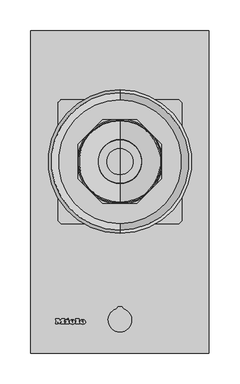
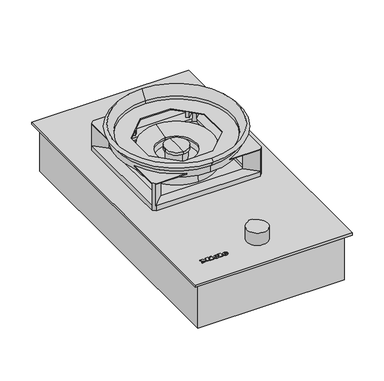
"""IFC4 building model written with IfcOpenShell, lengths in millimetres: proxy geometry, 12106150_HK_CS7151FL : 27715150_HK_12106150_CS7151FL."""

from ifc_helpers import new_model, si_unit, point, frame, frame_2d, origin, origin_with_axes, place, context, project, spatial, polyline, circle_curve, ellipse_curve, trimmed, segment, composite_curve, outline, extrude, source, transform, mapped, element, save
from ifc_brep_helpers import plane_surface, cylinder_surface, revolved_surface, extruded_surface, advanced_brep


def specialty_equipment_0a913533(model_context):
    return source(origin(), model_context, "Body", "SolidModel", [
        advanced_brep(
        [(-60.94, 49.1959995, 4.9919765), (-60.94, 50.0039992, 4.9925904), (-55.588, 50.0039992, 4.9925904), (-64.9, 50.0039992, 4.9925904), (-62.7, 47.3, 4.990536), (-55.724, 49.1959995, 4.9919765), (-58.14, 49.1959995, 4.9919765), (-60.044, 48.2999997, 4.9912958), (-60.94, 51.0279989, 4.9933684), (-60.94, 51.8999987, 4.9940309), (-59.572, 51.8999987, 4.9940309), (-59.572, 51.0279989, 4.9933684), (-60.94, 49.1967592, 3.9919768), (-60.044, 48.3007595, 3.9912961), (-58.14, 49.1967592, 3.9919768), (-55.724, 49.1967592, 3.9919768), (-62.7, 47.3007598, 3.9905363), (-64.9, 50.004759, 3.9925907), (-55.588, 50.004759, 3.9925907), (-60.94, 50.004759, 3.9925907), (-60.94, 51.0287587, 3.9933687), (-59.572, 51.0287587, 3.9933687), (-59.572, 51.9007584, 3.9940312), (-60.94, 51.9007584, 3.9940312)],
        [
            (0, 1),
            (1, 2),
            (2, 3, ellipse_curve(frame((-60.244, 50.0039992, 4.9925904), z_axis=(0.0, -0.0007597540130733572, 0.9999997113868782), x_axis=(-1.0, 0.0, 0.0)), 4.656, 3.848)),
            (3, 4, circle_curve(frame((-61.8039564, 50.2759991, 4.9927971), z_axis=(0.0, -0.0007597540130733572, 0.9999997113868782), x_axis=(0.0, -0.9999997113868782, -0.0007597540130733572)), 3.1079688)),
            (4, 5, circle_curve(frame((-60.3372064, 52.3879985, 4.9944017), z_axis=(0.0, -0.0007597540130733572, 0.9999997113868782), x_axis=(0.0, -0.9999997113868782, -0.0007597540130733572)), 5.6098607)),
            (5, 6),
            (6, 7, circle_curve(frame((-59.6529412, 49.9399992, 4.9925418), z_axis=(0.0, 0.0007597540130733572, -0.9999997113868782), x_axis=(0.0, -0.9999997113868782, -0.0007597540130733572)), 1.6859795)),
            (7, 0, circle_curve(frame((-60.044, 49.1959995, 4.9919765), z_axis=(0.0, 0.0007597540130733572, -0.9999997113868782), x_axis=(0.0, -0.9999997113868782, -0.0007597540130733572)), 0.896)),
            (8, 9),
            (9, 10, circle_curve(frame((-60.256, 51.8999987, 4.9940309), z_axis=(0.0, 0.0007597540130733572, -0.9999997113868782), x_axis=(0.0, -0.9999997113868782, -0.0007597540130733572)), 0.684)),
            (10, 11),
            (11, 8),
            (12, 13, circle_curve(frame((-60.044, 49.1967592, 3.9919768), z_axis=(0.0, -0.0007597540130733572, 0.9999997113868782), x_axis=(0.0, -0.9999997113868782, -0.0007597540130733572)), 0.896)),
            (13, 14, circle_curve(frame((-59.6529412, 49.940759, 3.9925421), z_axis=(0.0, -0.0007597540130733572, 0.9999997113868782), x_axis=(0.0, -0.9999997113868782, -0.0007597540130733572)), 1.6859795)),
            (14, 15),
            (15, 16, circle_curve(frame((-60.3372064, 52.3887583, 3.994402), z_axis=(0.0, 0.0007597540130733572, -0.9999997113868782), x_axis=(0.0, -0.9999997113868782, -0.0007597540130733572)), 5.6098607)),
            (16, 17, circle_curve(frame((-61.8039564, 50.2767589, 3.9927974), z_axis=(0.0, 0.0007597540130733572, -0.9999997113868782), x_axis=(0.0, -0.9999997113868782, -0.0007597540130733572)), 3.1079688)),
            (17, 18, ellipse_curve(frame((-60.244, 50.004759, 3.9925907), z_axis=(0.0, 0.0007597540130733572, -0.9999997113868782), x_axis=(-1.0, 0.0, 0.0)), 4.656, 3.848)),
            (18, 19),
            (19, 12),
            (20, 21),
            (21, 22),
            (22, 23, circle_curve(frame((-60.256, 51.9007584, 3.9940312), z_axis=(0.0, -0.0007597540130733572, 0.9999997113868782), x_axis=(0.0, -0.9999997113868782, -0.0007597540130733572)), 0.684)),
            (23, 20),
            (0, 12),
            (19, 1),
            (18, 2),
            (5, 15),
            (14, 6),
            (17, 3),
            (13, 7),
            (16, 4),
            (8, 20),
            (23, 9),
            (22, 10),
            (21, 11),
        ],
        [
            plane_surface(frame((-60.94, 50.0039992, 4.9925904), z_axis=(0.0, -0.0007597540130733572, 0.9999997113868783), x_axis=(0.0, 0.9999997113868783, 0.0007597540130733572))),
            plane_surface(frame((-60.94, 50.004759, 3.9925907), z_axis=(0.0, 0.0007597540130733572, -0.9999997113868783), x_axis=(0.0, -0.9999997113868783, -0.0007597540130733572))),
            plane_surface(frame((-60.94, 49.1959995, 4.9919765), z_axis=(1.0, 0.0, 0.0), x_axis=(0.0, 0.0007597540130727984, -0.9999997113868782))),
            plane_surface(frame((-60.94, 50.0039992, 4.9925904), z_axis=(0.0, -0.9999997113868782, -0.0007597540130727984), x_axis=(0.0, 0.0007597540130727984, -0.9999997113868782))),
            plane_surface(frame((-55.724, 49.1959995, 4.9919765), z_axis=(0.0, 0.9999997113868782, 0.0007597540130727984), x_axis=(0.0, 0.0007597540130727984, -0.9999997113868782))),
            extruded_surface(trimmed(ellipse_curve(frame((-60.244, 50.0055187, 2.992591), z_axis=(0.0, -0.0007597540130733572, 0.9999997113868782), x_axis=(-1.0, 0.0, 0.0)), 4.656, 3.848), [point((-55.588, 50.0055187, 2.992591))], [point((-64.9, 50.0055187, 2.992591))], True, "CARTESIAN"), (0.0, -0.0007597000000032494, 0.9999997), 0.9999999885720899),
            revolved_surface(polyline([(-59.6529412, 48.25477998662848, 3.9912611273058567), (-59.6529412, 48.25402023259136, 4.991260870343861)]), (-59.6529412, 49.940759, 3.9925421), (0.0, 0.0007597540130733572, -0.9999997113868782)),
            revolved_surface(polyline([(-60.044, 48.30075945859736, 3.9912960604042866), (-60.044, 48.29999970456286, 4.991295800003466)]), (-60.044, 49.1967592, 3.9919768), (0.0, 0.0007597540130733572, -0.9999997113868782)),
            cylinder_surface(frame((-61.8039564, 50.2767589, 3.9927974), z_axis=(0.0, -0.0007597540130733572, 0.9999997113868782), x_axis=(0.0, -0.9999997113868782, -0.0007597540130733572)), 3.1079688),
            cylinder_surface(frame((-60.3372064, 52.3887583, 3.994402), z_axis=(0.0, -0.0007597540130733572, 0.9999997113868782), x_axis=(0.0, -0.9999997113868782, -0.0007597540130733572)), 5.6098607),
            plane_surface(frame((-60.94, 51.0279989, 4.9933684), z_axis=(1.0, 0.0, 0.0), x_axis=(0.0, 0.0007597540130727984, -0.9999997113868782))),
            revolved_surface(polyline([(-60.256, 51.21675859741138, 3.9935115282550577), (-60.256, 51.215998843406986, 4.993511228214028)]), (-60.256, 51.9007584, 3.9940312), (0.0, 0.0007597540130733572, -0.9999997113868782)),
            plane_surface(frame((-59.572, 51.8999987, 4.9940309), z_axis=(-1.0, 0.0, 0.0), x_axis=(0.0, 0.0007597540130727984, -0.9999997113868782))),
            plane_surface(frame((-59.572, 51.0279989, 4.9933684), z_axis=(0.0, 0.9999997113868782, 0.0007597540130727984), x_axis=(0.0, 0.0007597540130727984, -0.9999997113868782))),
        ],
        [
            (0, [[1, 2, 3, 4, 5, 6, 7, 8], [9, 10, 11, 12]]),
            (1, [[13, 14, 15, 16, 17, 18, 19, 20], [21, 22, 23, 24]]),
            (2, [[-1, 25, -20, 26]]),
            (3, [[-2, -26, -19, 27]]),
            (4, [[-6, 28, -15, 29]]),
            (5, [[-3, -27, -18, 30]]),
            (6, [[-7, -29, -14, 31]]),
            (7, [[-8, -31, -13, -25]]),
            (8, [[-4, -30, -17, 32]]),
            (9, [[-5, -32, -16, -28]]),
            (10, [[-9, 33, -24, 34]]),
            (11, [[-10, -34, -23, 35]]),
            (12, [[-11, -35, -22, 36]]),
            (13, [[-12, -36, -21, -33]]),
        ],
    ),
        advanced_brep(
        [(-77.636, 49.1959995, 4.9919765), (-77.636, 50.0039992, 4.9925904), (-72.284, 50.0039992, 4.9925904), (-81.596, 50.0039992, 4.9925904), (-79.396, 47.3, 4.990536), (-72.42, 49.1959995, 4.9919765), (-74.836, 49.1959995, 4.9919765), (-76.74, 48.2999997, 4.9912958), (-77.636, 51.0279989, 4.9933684), (-77.636, 51.8999987, 4.9940309), (-76.268, 51.8999987, 4.9940309), (-76.268, 51.0279989, 4.9933684), (-77.636, 49.1967592, 3.9919768), (-76.74, 48.3007595, 3.9912961), (-74.836, 49.1967592, 3.9919768), (-72.42, 49.1967592, 3.9919768), (-79.396, 47.3007598, 3.9905363), (-81.596, 50.004759, 3.9925907), (-72.284, 50.004759, 3.9925907), (-77.636, 50.004759, 3.9925907), (-77.636, 51.0287587, 3.9933687), (-76.268, 51.0287587, 3.9933687), (-76.268, 51.9007584, 3.9940312), (-77.636, 51.9007584, 3.9940312)],
        [
            (0, 1),
            (1, 2),
            (2, 3, ellipse_curve(frame((-76.94, 50.0039992, 4.9925904), z_axis=(0.0, -0.0007597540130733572, 0.9999997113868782), x_axis=(-1.0, 0.0, 0.0)), 4.656, 3.848)),
            (3, 4, circle_curve(frame((-78.4999564, 50.2759991, 4.9927971), z_axis=(0.0, -0.0007597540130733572, 0.9999997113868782), x_axis=(0.0, -0.9999997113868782, -0.0007597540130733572)), 3.1079688)),
            (4, 5, circle_curve(frame((-77.0332064, 52.3879985, 4.9944017), z_axis=(0.0, -0.0007597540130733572, 0.9999997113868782), x_axis=(0.0, -0.9999997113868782, -0.0007597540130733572)), 5.6098607)),
            (5, 6),
            (6, 7, circle_curve(frame((-76.3489412, 49.9399992, 4.9925418), z_axis=(0.0, 0.0007597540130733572, -0.9999997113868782), x_axis=(0.0, -0.9999997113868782, -0.0007597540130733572)), 1.6859795)),
            (7, 0, circle_curve(frame((-76.74, 49.1959995, 4.9919765), z_axis=(0.0, 0.0007597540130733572, -0.9999997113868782), x_axis=(0.0, -0.9999997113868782, -0.0007597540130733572)), 0.896)),
            (8, 9),
            (9, 10, circle_curve(frame((-76.952, 51.8999987, 4.9940309), z_axis=(0.0, 0.0007597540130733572, -0.9999997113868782), x_axis=(0.0, -0.9999997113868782, -0.0007597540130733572)), 0.684)),
            (10, 11),
            (11, 8),
            (12, 13, circle_curve(frame((-76.74, 49.1967592, 3.9919768), z_axis=(0.0, -0.0007597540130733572, 0.9999997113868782), x_axis=(0.0, -0.9999997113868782, -0.0007597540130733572)), 0.896)),
            (13, 14, circle_curve(frame((-76.3489412, 49.940759, 3.9925421), z_axis=(0.0, -0.0007597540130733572, 0.9999997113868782), x_axis=(0.0, -0.9999997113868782, -0.0007597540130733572)), 1.6859795)),
            (14, 15),
            (15, 16, circle_curve(frame((-77.0332064, 52.3887583, 3.994402), z_axis=(0.0, 0.0007597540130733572, -0.9999997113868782), x_axis=(0.0, -0.9999997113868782, -0.0007597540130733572)), 5.6098607)),
            (16, 17, circle_curve(frame((-78.4999564, 50.2767589, 3.9927974), z_axis=(0.0, 0.0007597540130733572, -0.9999997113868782), x_axis=(0.0, -0.9999997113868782, -0.0007597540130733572)), 3.1079688)),
            (17, 18, ellipse_curve(frame((-76.94, 50.004759, 3.9925907), z_axis=(0.0, 0.0007597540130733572, -0.9999997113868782), x_axis=(-1.0, 0.0, 0.0)), 4.656, 3.848)),
            (18, 19),
            (19, 12),
            (20, 21),
            (21, 22),
            (22, 23, circle_curve(frame((-76.952, 51.9007584, 3.9940312), z_axis=(0.0, -0.0007597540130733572, 0.9999997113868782), x_axis=(0.0, -0.9999997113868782, -0.0007597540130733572)), 0.684)),
            (23, 20),
            (0, 12),
            (19, 1),
            (18, 2),
            (5, 15),
            (14, 6),
            (17, 3),
            (13, 7),
            (16, 4),
            (8, 20),
            (23, 9),
            (22, 10),
            (21, 11),
        ],
        [
            plane_surface(frame((-77.636, 50.0039992, 4.9925904), z_axis=(0.0, -0.0007597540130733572, 0.9999997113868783), x_axis=(0.0, 0.9999997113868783, 0.0007597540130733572))),
            plane_surface(frame((-77.636, 50.004759, 3.9925907), z_axis=(0.0, 0.0007597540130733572, -0.9999997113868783), x_axis=(0.0, -0.9999997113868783, -0.0007597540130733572))),
            plane_surface(frame((-77.636, 49.1959995, 4.9919765), z_axis=(1.0, 0.0, 0.0), x_axis=(0.0, 0.0007597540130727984, -0.9999997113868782))),
            plane_surface(frame((-77.636, 50.0039992, 4.9925904), z_axis=(0.0, -0.9999997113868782, -0.0007597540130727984), x_axis=(0.0, 0.0007597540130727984, -0.9999997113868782))),
            plane_surface(frame((-72.42, 49.1959995, 4.9919765), z_axis=(0.0, 0.9999997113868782, 0.0007597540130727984), x_axis=(0.0, 0.0007597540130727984, -0.9999997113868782))),
            extruded_surface(trimmed(ellipse_curve(frame((-76.94, 50.0055187, 2.992591), z_axis=(0.0, -0.0007597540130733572, 0.9999997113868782), x_axis=(-1.0, 0.0, 0.0)), 4.656, 3.848), [point((-72.284, 50.0055187, 2.992591))], [point((-81.596, 50.0055187, 2.992591))], True, "CARTESIAN"), (0.0, -0.0007597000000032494, 0.9999997), 0.9999999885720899),
            revolved_surface(polyline([(-76.3489412, 48.25477998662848, 3.9912611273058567), (-76.3489412, 48.25402023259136, 4.991260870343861)]), (-76.3489412, 49.940759, 3.9925421), (0.0, 0.0007597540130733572, -0.9999997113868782)),
            revolved_surface(polyline([(-76.74, 48.30075945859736, 3.9912960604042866), (-76.74, 48.29999970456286, 4.991295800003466)]), (-76.74, 49.1967592, 3.9919768), (0.0, 0.0007597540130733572, -0.9999997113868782)),
            cylinder_surface(frame((-78.4999564, 50.2767589, 3.9927974), z_axis=(0.0, -0.0007597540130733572, 0.9999997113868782), x_axis=(0.0, -0.9999997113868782, -0.0007597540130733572)), 3.1079688),
            cylinder_surface(frame((-77.0332064, 52.3887583, 3.994402), z_axis=(0.0, -0.0007597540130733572, 0.9999997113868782), x_axis=(0.0, -0.9999997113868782, -0.0007597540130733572)), 5.6098607),
            plane_surface(frame((-77.636, 51.0279989, 4.9933684), z_axis=(1.0, 0.0, 0.0), x_axis=(0.0, 0.0007597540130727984, -0.9999997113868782))),
            revolved_surface(polyline([(-76.952, 51.21675859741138, 3.9935115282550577), (-76.952, 51.215998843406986, 4.993511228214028)]), (-76.952, 51.9007584, 3.9940312), (0.0, 0.0007597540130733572, -0.9999997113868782)),
            plane_surface(frame((-76.268, 51.8999987, 4.9940309), z_axis=(-1.0, 0.0, 0.0), x_axis=(0.0, 0.0007597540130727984, -0.9999997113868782))),
            plane_surface(frame((-76.268, 51.0279989, 4.9933684), z_axis=(0.0, 0.9999997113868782, 0.0007597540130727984), x_axis=(0.0, 0.0007597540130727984, -0.9999997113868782))),
        ],
        [
            (0, [[1, 2, 3, 4, 5, 6, 7, 8], [9, 10, 11, 12]]),
            (1, [[13, 14, 15, 16, 17, 18, 19, 20], [21, 22, 23, 24]]),
            (2, [[-1, 25, -20, 26]]),
            (3, [[-2, -26, -19, 27]]),
            (4, [[-6, 28, -15, 29]]),
            (5, [[-3, -27, -18, 30]]),
            (6, [[-7, -29, -14, 31]]),
            (7, [[-8, -31, -13, -25]]),
            (8, [[-4, -30, -17, 32]]),
            (9, [[-5, -32, -16, -28]]),
            (10, [[-9, 33, -24, 34]]),
            (11, [[-10, -34, -23, 35]]),
            (12, [[-11, -35, -22, 36]]),
            (13, [[-12, -36, -21, -33]]),
        ],
    ),
        extrude(outline(polyline([(0.0, 0.0), (-0.0109086, -2.9993294), (-1.4390415, -2.9920868), (-1.4315306, 0.0), (0.0, 0.0)])), frame((-86.38, 54.8287576, 3.9962558), z_axis=(0.0, -0.0007597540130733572, 0.9999997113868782), x_axis=(-0.42472021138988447, 0.9053243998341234, 0.0006878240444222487)), (0.0, 0.0, 1.0), 1.0),
        extrude(outline(polyline([(-0.4933908, 2.4141097), (-2.7800844, -2.4601583), (-7.0459742, -0.4588767), (-7.4401145, -1.2990179), (-8.6568709, -0.728194), (-5.9760369, 4.9862153), (-4.7592806, 4.4153913), (-5.1636142, 3.5535222), (-2.1941494, 2.16044), (-1.7898157, 3.022309), (-0.4933908, 2.4141097)])), frame((-86.38, 54.8287576, 3.9962558), z_axis=(0.0, -0.0007597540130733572, 0.9999997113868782), x_axis=(-0.42472021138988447, 0.9053243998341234, 0.0006878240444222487)), (0.0, 0.0, 1.0), 1.0),
        extrude(outline(polyline([(0.0, 0.0), (0.0, -1.304), (-5.504, -1.304), (-5.504, 5.3519999), (-6.488, 5.3519999), (-6.488, 6.6959999), (0.0, 6.6959999), (0.0, 5.3519999), (-0.96, 5.3519999), (-0.96, 0.0), (0.0, 0.0)])), frame((-71.836, 53.9967578, 3.9956236), z_axis=(0.0, -0.0007597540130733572, 0.9999997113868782), x_axis=(-1.0, 0.0, 0.0)), (0.0, 0.0, 1.0), 1.0),
        extrude(outline(polyline([(0.0, 0.0), (0.0, -1.304), (-5.576, -1.304), (-7.92, 1.696), (-10.256, -1.304), (-15.128, -1.304), (-15.128, 0.0), (-14.112, 0.0), (-14.112, 5.3519999), (-15.128, 5.3519999), (-15.128, 6.6959999), (-8.744, 6.6959999), (-8.744, 5.3519999), (-9.728, 5.3519999), (-9.728, 1.8807776), (-6.136, 6.6959999), (-2.56, 1.9488753), (-2.56, 5.3519999), (-3.52, 5.3519999), (-3.52, 6.6959999), (0.0, 6.6959999), (0.0, 5.3519999), (-0.968, 5.3519999), (-0.968, 0.0), (0.0, 0.0)])), frame((-104.3, 53.9967578, 3.9956236), z_axis=(0.0, -0.0007597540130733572, 0.9999997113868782), x_axis=(-1.0, 0.0, 0.0)), (0.0, 0.0, 1.0), 1.0),
        extrude(outline(composite_curve([segment(trimmed(circle_curve(frame_2d((0.0, 53.0)), 7.5), [point((-7.5, 53.0))], [point((7.5, 53.0))], False, "CARTESIAN"), True, "CONTINUOUS"), segment(trimmed(circle_curve(frame_2d((0.0, 53.0)), 7.5), [point((7.5, 53.0))], [point((-7.5, 53.0))], False, "CARTESIAN"), True, "CONTINUOUS")], self_intersect=False)), frame((0.0, 0.0, 4.0), z_axis=(0.0, 0.0, 1.0), x_axis=(1.0, 0.0, 0.0)), (0.0, 0.0, 1.0), 7.5),
        extrude(outline(composite_curve([segment(polyline([(-5.6016767, 71.1554735), (-3.3, 74.5)]), True, "CONTINUOUS"), segment(trimmed(circle_curve(frame_2d((0.0, 53.0)), 21.7517815), [point((-3.3, 74.5))], [point((3.3, 74.5))], False, "CARTESIAN"), True, "CONTINUOUS"), segment(polyline([(3.3, 74.5), (5.6016767, 71.1554735)]), True, "CONTINUOUS"), segment(trimmed(circle_curve(frame_2d((0.0, 53.0)), 19.0), [point((5.6016767, 71.1554735))], [point((-5.6016767, 71.1554735))], False, "CARTESIAN"), True, "CONTINUOUS")], self_intersect=False)), frame((0.0, 0.0, 11.5), z_axis=(0.0, 0.0, 1.0), x_axis=(1.0, 0.0, 0.0)), (0.0, 0.0, 1.0), 23.5),
        extrude(outline(polyline([(90.0, 399.0), (90.0, 219.0), (-90.0, 219.0), (-90.0, 399.0), (90.0, 399.0)])), frame((0.0, 0.0, 4.0), z_axis=(0.0, 0.0, 1.0), x_axis=(1.0, 0.0, 0.0)), (0.0, 0.0, 1.0), 3.8),
        advanced_brep(
        [(0.0, 409.0, 56.9), (0.0, 209.0, 56.9), (-27.8641463, 241.73, 56.9), (-67.27, 281.1358537, 56.9), (-67.27, 336.8641463, 56.9), (-27.8641463, 376.27, 56.9), (27.8641463, 376.27, 56.9), (67.27, 336.8641463, 56.9), (67.27, 281.1358537, 56.9), (27.8641463, 241.73, 56.9), (-95.2, 409.2, 56.9), (-100.2, 404.2, 56.9), (-100.2, 348.4873397, 56.9), (-39.4873397, 409.2, 56.9), (-100.2, 213.8, 56.9), (-95.2, 208.8, 56.9), (-39.4873397, 208.8, 56.9), (-100.2, 269.5126603, 56.9), (95.2, 208.8, 56.9), (100.2, 213.8, 56.9), (100.2, 269.5126603, 56.9), (39.4873397, 208.8, 56.9), (100.2, 404.2, 56.9), (95.2, 409.2, 56.9), (39.4873397, 409.2, 56.9), (100.2, 348.4873397, 56.9), (95.2, 409.2, 4.0), (100.2, 404.2, 4.0), (100.2, 213.8, 4.0), (95.2, 208.8, 4.0), (-95.2, 208.8, 4.0), (-100.2, 213.8, 4.0), (-100.2, 404.2, 4.0), (-95.2, 409.2, 4.0), (91.0, 218.0, 4.0), (91.0, 400.0, 4.0), (-91.0, 400.0, 4.0), (-91.0, 218.0, 4.0), (-95.2, 409.2, 13.5), (95.2, 409.2, 13.5), (95.2, 409.2, 55.5), (39.4873397, 409.2, 55.5), (-95.2, 409.2, 55.5), (-39.4873397, 409.2, 55.5), (-95.5786797, 408.8213203, 55.5), (-95.5786797, 408.8213203, 13.5), (-100.2, 404.2, 13.5), (-99.8213203, 404.5786797, 13.5), (-99.8213203, 404.5786797, 55.5), (-100.2, 404.2, 55.5), (-100.2, 213.8, 13.5), (-100.2, 348.4873397, 55.5), (-100.2, 213.8, 55.5), (-100.2, 269.5126603, 55.5), (-99.8213203, 213.4213203, 55.5), (-99.8213203, 213.4213203, 13.5), (-95.2, 208.8, 13.5), (-95.5786797, 209.1786797, 13.5), (-95.5786797, 209.1786797, 55.5), (-95.2, 208.8, 55.5), (95.2, 208.8, 13.5), (-39.4873397, 208.8, 55.5), (95.2, 208.8, 55.5), (39.4873397, 208.8, 55.5), (95.5786797, 209.1786797, 55.5), (95.5786797, 209.1786797, 13.5), (100.2, 213.8, 13.5), (99.8213203, 213.4213203, 13.5), (99.8213203, 213.4213203, 55.5), (100.2, 213.8, 55.5), (100.2, 404.2, 13.5), (100.2, 269.5126603, 55.5), (100.2, 404.2, 55.5), (100.2, 348.4873397, 55.5), (99.8213203, 404.5786797, 55.5), (99.8213203, 404.5786797, 13.5), (95.5786797, 408.8213203, 13.5), (95.5786797, 408.8213203, 55.5), (-27.8641463, 241.73, 55.5), (-45.4457528, 259.3116065, 55.5), (-45.4457528, 259.3116065, 45.5), (-49.6883935, 263.5542472, 45.5), (-49.6883935, 263.5542472, 55.5), (-67.27, 281.1358537, 55.5), (-67.27, 336.8641463, 55.5), (-49.6883935, 354.4457528, 55.5), (-49.6883935, 354.4457528, 45.5), (-45.4457528, 358.6883935, 45.5), (-45.4457528, 358.6883935, 55.5), (-27.8641463, 376.27, 55.5), (27.8641463, 376.27, 55.5), (45.4457528, 358.6883935, 55.5), (45.4457528, 358.6883935, 45.5), (49.6883935, 354.4457528, 45.5), (49.6883935, 354.4457528, 55.5), (67.27, 336.8641463, 55.5), (67.27, 281.1358537, 55.5), (49.6883935, 263.5542472, 55.5), (49.6883935, 263.5542472, 45.5), (45.4457528, 259.3116065, 45.5), (45.4457528, 259.3116065, 55.5), (27.8641463, 241.73, 55.5), (91.0, 400.0, 9.0), (91.0, 218.0, 9.0), (-91.0, 218.0, 9.0), (-91.0, 400.0, 9.0), (80.0, 384.0, 9.0), (75.0, 389.0, 9.0), (-75.0, 389.0, 9.0), (-80.0, 384.0, 9.0), (-80.0, 234.0, 9.0), (-75.0, 229.0, 9.0), (75.0, 229.0, 9.0), (80.0, 234.0, 9.0), (-75.3786797, 229.3786797, 45.5), (-79.6213203, 233.6213203, 45.5), (-79.6213203, 384.3786797, 45.5), (-75.3786797, 388.6213203, 45.5), (75.3786797, 388.6213203, 45.5), (79.6213203, 384.3786797, 45.5), (79.6213203, 233.6213203, 45.5), (75.3786797, 229.3786797, 45.5), (80.0, 384.0, 13.5), (79.6213203, 384.3786797, 13.5), (75.3786797, 388.6213203, 13.5), (75.0, 389.0, 13.5), (80.0, 234.0, 13.5), (75.0, 229.0, 13.5), (75.3786797, 229.3786797, 13.5), (79.6213203, 233.6213203, 13.5), (-75.0, 229.0, 13.5), (-80.0, 234.0, 13.5), (-79.6213203, 233.6213203, 13.5), (-75.3786797, 229.3786797, 13.5), (-80.0, 384.0, 13.5), (-75.0, 389.0, 13.5), (-75.3786797, 388.6213203, 13.5), (-79.6213203, 384.3786797, 13.5), (-72.8001715, 377.5575308, 55.5), (-72.8001715, 377.5575308, 50.5), (-78.2471701, 383.0045294, 50.5), (-78.2471701, 383.0045294, 55.5), (-78.2471701, 234.9954706, 55.5), (-78.2471701, 234.9954706, 50.5), (-72.8001715, 240.4424692, 50.5), (-72.8001715, 240.4424692, 55.5), (-68.5575308, 236.1998285, 55.5), (-68.5575308, 236.1998285, 50.5), (-74.0045294, 230.7528299, 50.5), (-74.0045294, 230.7528299, 55.5), (74.0045294, 230.7528299, 55.5), (74.0045294, 230.7528299, 50.5), (68.5575308, 236.1998285, 50.5), (68.5575308, 236.1998285, 55.5), (72.8001715, 240.4424692, 55.5), (72.8001715, 240.4424692, 50.5), (78.2471701, 234.9954706, 50.5), (78.2471701, 234.9954706, 55.5), (78.2471701, 383.0045294, 55.5), (78.2471701, 383.0045294, 50.5), (72.8001715, 377.5575308, 50.5), (72.8001715, 377.5575308, 55.5), (68.5575308, 381.8001715, 55.5), (68.5575308, 381.8001715, 50.5), (74.0045294, 387.2471701, 50.5), (74.0045294, 387.2471701, 55.5), (-74.0045294, 387.2471701, 55.5), (-74.0045294, 387.2471701, 50.5), (-68.5575308, 381.8001715, 50.5), (-68.5575308, 381.8001715, 55.5), (0.0, 409.0, 50.5), (0.0, 409.0, 55.5), (0.0, 209.0, 55.5), (0.0, 209.0, 50.5), (0.0, 409.0, 62.5), (0.0, 209.0, 62.5), (0.0, 420.0, 79.0), (0.0, 198.0, 79.0), (0.0, 425.0, 74.0), (0.0, 193.0, 74.0), (0.0, 416.7, 62.5), (0.0, 201.3, 62.5), (0.0, 416.7, 50.5), (0.0, 201.3, 50.5)],
        [
            (0, 1, circle_curve(frame((0.0, 309.0, 56.9), z_axis=(0.0, 0.0, 1.0), x_axis=(0.0, -1.0, 0.0)), 100.0)),
            (1, 0, circle_curve(frame((0.0, 309.0, 56.9), z_axis=(0.0, 0.0, 1.0), x_axis=(0.0, -1.0, 0.0)), 100.0)),
            (2, 3),
            (3, 4),
            (4, 5),
            (5, 6),
            (6, 7),
            (7, 8),
            (8, 9),
            (9, 2),
            (10, 11),
            (11, 12),
            (12, 13, circle_curve(frame((0.0, 309.0, 56.9), z_axis=(0.0, 0.0, -1.0), x_axis=(0.0, -1.0, 0.0)), 107.7)),
            (13, 10),
            (14, 15),
            (15, 16),
            (16, 17, circle_curve(frame((0.0, 309.0, 56.9), z_axis=(0.0, 0.0, -1.0), x_axis=(0.0, -1.0, 0.0)), 107.7)),
            (17, 14),
            (18, 19),
            (19, 20),
            (20, 21, circle_curve(frame((0.0, 309.0, 56.9), z_axis=(0.0, 0.0, -1.0), x_axis=(0.0, -1.0, 0.0)), 107.7)),
            (21, 18),
            (22, 23),
            (23, 24),
            (24, 25, circle_curve(frame((0.0, 309.0, 56.9), z_axis=(0.0, 0.0, -1.0), x_axis=(0.0, -1.0, 0.0)), 107.7)),
            (25, 22),
            (26, 27),
            (27, 28),
            (28, 29),
            (29, 30),
            (30, 31),
            (31, 32),
            (32, 33),
            (33, 26),
            (34, 35),
            (35, 36),
            (36, 37),
            (37, 34),
            (33, 38),
            (38, 39),
            (39, 26),
            (23, 40),
            (40, 41),
            (41, 24),
            (42, 10),
            (13, 43),
            (43, 42),
            (42, 44),
            (44, 45),
            (45, 38),
            (32, 46),
            (46, 47),
            (47, 48),
            (48, 49),
            (49, 11),
            (31, 50),
            (50, 46),
            (49, 51),
            (51, 12),
            (52, 14),
            (17, 53),
            (53, 52),
            (52, 54),
            (54, 55),
            (55, 50),
            (30, 56),
            (56, 57),
            (57, 58),
            (58, 59),
            (59, 15),
            (29, 60),
            (60, 56),
            (59, 61),
            (61, 16),
            (62, 18),
            (21, 63),
            (63, 62),
            (62, 64),
            (64, 65),
            (65, 60),
            (28, 66),
            (66, 67),
            (67, 68),
            (68, 69),
            (69, 19),
            (27, 70),
            (70, 66),
            (69, 71),
            (71, 20),
            (72, 22),
            (25, 73),
            (73, 72),
            (72, 74),
            (74, 75),
            (75, 70),
            (39, 76),
            (76, 77),
            (77, 40),
            (2, 78),
            (78, 79),
            (79, 80),
            (80, 81),
            (81, 82),
            (82, 83),
            (83, 3),
            (4, 84),
            (84, 85),
            (85, 86),
            (86, 87),
            (87, 88),
            (88, 89),
            (89, 5),
            (6, 90),
            (90, 91),
            (91, 92),
            (92, 93),
            (93, 94),
            (94, 95),
            (95, 7),
            (8, 96),
            (96, 97),
            (97, 98),
            (98, 99),
            (99, 100),
            (100, 101),
            (101, 9),
            (102, 103),
            (103, 104),
            (104, 105),
            (105, 102),
            (106, 107),
            (107, 108),
            (108, 109),
            (109, 110),
            (110, 111),
            (111, 112),
            (112, 113),
            (113, 106),
            (102, 35),
            (34, 103),
            (37, 104),
            (36, 105),
            (80, 114),
            (114, 115),
            (115, 81),
            (86, 116),
            (116, 117),
            (117, 87),
            (92, 118),
            (118, 119),
            (119, 93),
            (98, 120),
            (120, 121),
            (121, 99),
            (106, 122),
            (122, 123),
            (123, 119),
            (118, 124),
            (124, 125),
            (125, 107),
            (113, 126),
            (126, 122),
            (112, 127),
            (127, 128),
            (128, 121),
            (120, 129),
            (129, 126),
            (111, 130),
            (130, 127),
            (110, 131),
            (131, 132),
            (132, 115),
            (114, 133),
            (133, 130),
            (109, 134),
            (134, 131),
            (108, 135),
            (135, 136),
            (136, 117),
            (116, 137),
            (137, 134),
            (125, 135),
            (45, 136),
            (124, 76),
            (75, 123),
            (129, 67),
            (65, 128),
            (133, 57),
            (55, 132),
            (137, 47),
            (85, 138),
            (138, 139),
            (139, 140),
            (140, 141),
            (141, 48),
            (54, 142),
            (142, 143),
            (143, 144),
            (144, 145),
            (145, 82),
            (79, 146),
            (146, 147),
            (147, 148),
            (148, 149),
            (149, 58),
            (64, 150),
            (150, 151),
            (151, 152),
            (152, 153),
            (153, 100),
            (97, 154),
            (154, 155),
            (155, 156),
            (156, 157),
            (157, 68),
            (74, 158),
            (158, 159),
            (159, 160),
            (160, 161),
            (161, 94),
            (91, 162),
            (162, 163),
            (163, 164),
            (164, 165),
            (165, 77),
            (44, 166),
            (166, 167),
            (167, 168),
            (168, 169),
            (169, 88),
            (144, 139, circle_curve(frame((0.0, 309.0, 50.5), z_axis=(0.0, 0.0, -1.0), x_axis=(0.0, -1.0, 0.0)), 100.0)),
            (138, 145, circle_curve(frame((0.0, 309.0, 55.5), z_axis=(0.0, 0.0, 1.0), x_axis=(0.0, -1.0, 0.0)), 100.0)),
            (168, 170, circle_curve(frame((0.0, 309.0, 50.5), z_axis=(0.0, 0.0, -1.0), x_axis=(0.0, -1.0, 0.0)), 100.0)),
            (170, 171),
            (171, 169, circle_curve(frame((0.0, 309.0, 55.5), z_axis=(0.0, 0.0, 1.0), x_axis=(0.0, -1.0, 0.0)), 100.0)),
            (172, 173),
            (173, 147, circle_curve(frame((0.0, 309.0, 50.5), z_axis=(0.0, 0.0, -1.0), x_axis=(0.0, -1.0, 0.0)), 100.0)),
            (146, 172, circle_curve(frame((0.0, 309.0, 55.5), z_axis=(0.0, 0.0, 1.0), x_axis=(0.0, -1.0, 0.0)), 100.0)),
            (174, 175, circle_curve(frame((0.0, 309.0, 62.5), z_axis=(0.0, 0.0, 1.0), x_axis=(0.0, -1.0, 0.0)), 100.0)),
            (175, 1),
            (0, 174),
            (170, 163, circle_curve(frame((0.0, 309.0, 50.5), z_axis=(0.0, 0.0, -1.0), x_axis=(0.0, -1.0, 0.0)), 100.0)),
            (162, 171, circle_curve(frame((0.0, 309.0, 55.5), z_axis=(0.0, 0.0, 1.0), x_axis=(0.0, -1.0, 0.0)), 100.0)),
            (172, 153, circle_curve(frame((0.0, 309.0, 55.5), z_axis=(0.0, 0.0, 1.0), x_axis=(0.0, -1.0, 0.0)), 100.0)),
            (152, 173, circle_curve(frame((0.0, 309.0, 50.5), z_axis=(0.0, 0.0, -1.0), x_axis=(0.0, -1.0, 0.0)), 100.0)),
            (160, 155, circle_curve(frame((0.0, 309.0, 50.5), z_axis=(0.0, 0.0, -1.0), x_axis=(0.0, -1.0, 0.0)), 100.0)),
            (154, 161, circle_curve(frame((0.0, 309.0, 55.5), z_axis=(0.0, 0.0, 1.0), x_axis=(0.0, -1.0, 0.0)), 100.0)),
            (175, 174, circle_curve(frame((0.0, 309.0, 62.5), z_axis=(0.0, 0.0, 1.0), x_axis=(0.0, -1.0, 0.0)), 100.0)),
            (174, 176),
            (176, 177, circle_curve(frame((0.0, 309.0, 79.0), z_axis=(0.0, 0.0, 1.0), x_axis=(0.0, -1.0, 0.0)), 111.0)),
            (177, 175),
            (177, 176, circle_curve(frame((0.0, 309.0, 79.0), z_axis=(0.0, 0.0, 1.0), x_axis=(0.0, -1.0, 0.0)), 111.0)),
            (176, 178),
            (178, 179, circle_curve(frame((0.0, 309.0, 74.0), z_axis=(0.0, 0.0, 1.0), x_axis=(0.0, -1.0, 0.0)), 116.0)),
            (179, 177),
            (179, 178, circle_curve(frame((0.0, 309.0, 74.0), z_axis=(0.0, 0.0, 1.0), x_axis=(0.0, -1.0, 0.0)), 116.0)),
            (178, 180),
            (180, 181, circle_curve(frame((0.0, 309.0, 62.5), z_axis=(0.0, 0.0, 1.0), x_axis=(0.0, -1.0, 0.0)), 107.7)),
            (181, 179),
            (181, 180, circle_curve(frame((0.0, 309.0, 62.5), z_axis=(0.0, 0.0, 1.0), x_axis=(0.0, -1.0, 0.0)), 107.7)),
            (180, 182),
            (182, 167, circle_curve(frame((0.0, 309.0, 50.5), z_axis=(0.0, 0.0, 1.0), x_axis=(0.0, -1.0, 0.0)), 107.7)),
            (166, 43, circle_curve(frame((0.0, 309.0, 55.5), z_axis=(0.0, 0.0, -1.0), x_axis=(0.0, -1.0, 0.0)), 107.7)),
            (51, 141, circle_curve(frame((0.0, 309.0, 55.5), z_axis=(0.0, 0.0, -1.0), x_axis=(0.0, -1.0, 0.0)), 107.7)),
            (140, 143, circle_curve(frame((0.0, 309.0, 50.5), z_axis=(0.0, 0.0, 1.0), x_axis=(0.0, -1.0, 0.0)), 107.7)),
            (142, 53, circle_curve(frame((0.0, 309.0, 55.5), z_axis=(0.0, 0.0, -1.0), x_axis=(0.0, -1.0, 0.0)), 107.7)),
            (61, 149, circle_curve(frame((0.0, 309.0, 55.5), z_axis=(0.0, 0.0, -1.0), x_axis=(0.0, -1.0, 0.0)), 107.7)),
            (148, 183, circle_curve(frame((0.0, 309.0, 50.5), z_axis=(0.0, 0.0, 1.0), x_axis=(0.0, -1.0, 0.0)), 107.7)),
            (183, 181),
            (183, 151, circle_curve(frame((0.0, 309.0, 50.5), z_axis=(0.0, 0.0, 1.0), x_axis=(0.0, -1.0, 0.0)), 107.7)),
            (150, 63, circle_curve(frame((0.0, 309.0, 55.5), z_axis=(0.0, 0.0, -1.0), x_axis=(0.0, -1.0, 0.0)), 107.7)),
            (71, 157, circle_curve(frame((0.0, 309.0, 55.5), z_axis=(0.0, 0.0, -1.0), x_axis=(0.0, -1.0, 0.0)), 107.7)),
            (156, 159, circle_curve(frame((0.0, 309.0, 50.5), z_axis=(0.0, 0.0, 1.0), x_axis=(0.0, -1.0, 0.0)), 107.7)),
            (158, 73, circle_curve(frame((0.0, 309.0, 55.5), z_axis=(0.0, 0.0, -1.0), x_axis=(0.0, -1.0, 0.0)), 107.7)),
            (41, 165, circle_curve(frame((0.0, 309.0, 55.5), z_axis=(0.0, 0.0, -1.0), x_axis=(0.0, -1.0, 0.0)), 107.7)),
            (164, 182, circle_curve(frame((0.0, 309.0, 50.5), z_axis=(0.0, 0.0, 1.0), x_axis=(0.0, -1.0, 0.0)), 107.7)),
            (173, 183),
            (182, 170),
            (83, 84),
            (89, 90),
            (95, 96),
            (101, 78),
        ],
        [
            plane_surface(frame((-95.2, 409.2, 56.9), z_axis=(0.0, 0.0, 1.0), x_axis=(-1.0, 0.0, 0.0))),
            plane_surface(frame((-95.2, 409.2, 4.0), z_axis=(0.0, 0.0, -1.0), x_axis=(1.0, 0.0, 0.0))),
            plane_surface(frame((95.2, 409.2, 56.9), z_axis=(0.0, 1.0, 0.0), x_axis=(0.0, 0.0, -1.0))),
            plane_surface(frame((-95.2, 409.2, 56.9), z_axis=(-0.7071067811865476, 0.7071067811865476, 0.0), x_axis=(0.0, 0.0, -1.0))),
            plane_surface(frame((-100.2, 404.2, 56.9), z_axis=(-1.0, 0.0, 0.0), x_axis=(0.0, 0.0, -1.0))),
            plane_surface(frame((-100.2, 213.8, 56.9), z_axis=(-0.7071067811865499, -0.7071067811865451, 0.0), x_axis=(0.0, 0.0, -1.0))),
            plane_surface(frame((-95.2, 208.8, 56.9), z_axis=(0.0, -1.0, 0.0), x_axis=(0.0, 0.0, -1.0))),
            plane_surface(frame((95.2, 208.8, 56.9), z_axis=(0.7071067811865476, -0.7071067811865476, 0.0), x_axis=(0.0, 0.0, -1.0))),
            plane_surface(frame((100.2, 213.8, 56.9), z_axis=(1.0, 0.0, 0.0), x_axis=(0.0, 0.0, -1.0))),
            plane_surface(frame((100.2, 404.2, 56.9), z_axis=(0.7071067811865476, 0.7071067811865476, 0.0), x_axis=(0.0, 0.0, -1.0))),
            plane_surface(frame((-27.8641463, 241.73, 56.9), z_axis=(0.7071067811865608, 0.7071067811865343, 0.0), x_axis=(0.0, 0.0, -1.0))),
            plane_surface(frame((-67.27, 336.8641463, 56.9), z_axis=(0.7071067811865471, -0.707106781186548, 0.0), x_axis=(0.0, 0.0, -1.0))),
            plane_surface(frame((27.8641463, 376.27, 56.9), z_axis=(-0.7071067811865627, -0.7071067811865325, 0.0), x_axis=(0.0, 0.0, -1.0))),
            plane_surface(frame((67.27, 281.1358537, 56.9), z_axis=(-0.7071067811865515, 0.7071067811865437, 0.0), x_axis=(0.0, 0.0, -1.0))),
            plane_surface(frame((91.0, 400.0, 9.0), z_axis=(0.0, 0.0, -1.0), x_axis=(0.0, 1.0, 0.0))),
            plane_surface(frame((91.0, 400.0, 4.0), z_axis=(-1.0, 0.0, 0.0), x_axis=(0.0, 0.0, 1.0))),
            plane_surface(frame((91.0, 218.0, 4.0), z_axis=(0.0, 1.0, 0.0), x_axis=(0.0, 0.0, 1.0))),
            plane_surface(frame((-91.0, 218.0, 4.0), z_axis=(1.0, 0.0, 0.0), x_axis=(0.0, 0.0, 1.0))),
            plane_surface(frame((-91.0, 400.0, 4.0), z_axis=(0.0, -1.0, 0.0), x_axis=(0.0, 0.0, 1.0))),
            plane_surface(frame((75.0, 389.0, 45.5), z_axis=(0.0, 0.0, -1.0), x_axis=(-0.7071067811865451, 0.7071067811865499, 0.0))),
            plane_surface(frame((75.0, 389.0, 4.0), z_axis=(-0.7071067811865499, -0.7071067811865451, 0.0), x_axis=(0.0, 0.0, 1.0))),
            plane_surface(frame((80.0, 384.0, 4.0), z_axis=(-1.0, 0.0, 0.0), x_axis=(0.0, 0.0, 1.0))),
            plane_surface(frame((80.0, 234.0, 4.0), z_axis=(-0.7071067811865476, 0.7071067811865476, 0.0), x_axis=(0.0, 0.0, 1.0))),
            plane_surface(frame((75.0, 229.0, 4.0), z_axis=(0.0, 1.0, 0.0), x_axis=(0.0, 0.0, 1.0))),
            plane_surface(frame((-75.0, 229.0, 4.0), z_axis=(0.7071067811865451, 0.7071067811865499, 0.0), x_axis=(0.0, 0.0, 1.0))),
            plane_surface(frame((-80.0, 234.0, 4.0), z_axis=(1.0, 0.0, 0.0), x_axis=(0.0, 0.0, 1.0))),
            plane_surface(frame((-80.0, 384.0, 4.0), z_axis=(0.7071067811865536, -0.7071067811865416, 0.0), x_axis=(0.0, 0.0, 1.0))),
            plane_surface(frame((-75.0, 389.0, 4.0), z_axis=(0.0, -1.0, 0.0), x_axis=(0.0, 0.0, 1.0))),
            plane_surface(frame((-110.2, 419.2, 13.5), z_axis=(0.0, 0.0, 1.0), x_axis=(-1.0, 0.0, 0.0))),
            plane_surface(frame((-110.2, 414.9573593, 13.5), z_axis=(-0.7071067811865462, -0.7071067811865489, 0.0), x_axis=(0.0, 0.0, 1.0))),
            plane_surface(frame((-4.2426407, 309.0, 13.5), z_axis=(-0.7071067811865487, 0.7071067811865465, 0.0), x_axis=(0.0, 0.0, 1.0))),
            plane_surface(frame((-105.9573593, 198.8, 13.5), z_axis=(0.7071067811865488, -0.7071067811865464, 0.0), x_axis=(0.0, 0.0, 1.0))),
            plane_surface(frame((0.0, 304.7573593, 13.5), z_axis=(-0.7071067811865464, -0.7071067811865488, 0.0), x_axis=(0.0, 0.0, 1.0))),
            plane_surface(frame((110.2, 203.0426407, 13.5), z_axis=(0.7071067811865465, 0.7071067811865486, 0.0), x_axis=(0.0, 0.0, 1.0))),
            plane_surface(frame((4.2426407, 309.0, 13.5), z_axis=(0.7071067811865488, -0.7071067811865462, 0.0), x_axis=(0.0, 0.0, 1.0))),
            plane_surface(frame((105.9573593, 419.2, 13.5), z_axis=(-0.7071067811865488, 0.7071067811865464, 0.0), x_axis=(0.0, 0.0, 1.0))),
            plane_surface(frame((0.0, 313.2426407, 13.5), z_axis=(0.7071067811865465, 0.7071067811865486, 0.0), x_axis=(0.0, 0.0, 1.0))),
            revolved_surface(polyline([(0.0, 209.0, 50.5), (0.0, 209.0, 55.5)]), (0.0, 309.0, 2418.6), (0.0, 0.0, -1.0)),
            revolved_surface(polyline([(0.0, 209.0, 56.90000000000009), (0.0, 209.0, 62.5)]), (0.0, 309.0, 2418.6), (0.0, 0.0, -1.0)),
            revolved_surface(polyline([(0.0, 209.0, 62.5), (0.0, 198.0, 79.0)]), (0.0, 309.0, 2418.6), (0.0, 0.0, -1.0)),
            revolved_surface(polyline([(0.0, 198.0, 79.0), (0.0, 193.0, 74.0)]), (0.0, 309.0, 2418.6), (0.0, 0.0, -1.0)),
            revolved_surface(polyline([(0.0, 193.0, 74.0), (0.0, 201.3, 62.5)]), (0.0, 309.0, 2418.6), (0.0, 0.0, -1.0)),
            cylinder_surface(frame((0.0, 309.0, 2418.6), z_axis=(0.0, 0.0, -1.0), x_axis=(0.0, -1.0, 0.0)), 107.7),
            plane_surface(frame((0.0, 309.0, 50.5), z_axis=(0.0, 0.0, -1.0), x_axis=(0.0, -1.0, 0.0))),
            plane_surface(frame((-67.27, 281.1358537, 56.9), z_axis=(1.0, 0.0, 0.0), x_axis=(0.0, 0.0, -1.0))),
            plane_surface(frame((-27.8641463, 376.27, 56.9), z_axis=(0.0, -1.0, 0.0), x_axis=(0.0, 0.0, -1.0))),
            plane_surface(frame((67.27, 336.8641463, 56.9), z_axis=(-1.0, 0.0, 0.0), x_axis=(0.0, 0.0, -1.0))),
            plane_surface(frame((27.8641463, 241.73, 56.9), z_axis=(0.0, 1.0, 0.0), x_axis=(0.0, 0.0, -1.0))),
            plane_surface(frame((-110.2, 419.2, 55.5), z_axis=(0.0, 0.0, -1.0), x_axis=(1.0, 0.0, 0.0))),
        ],
        [
            (0, [[1, 2], [3, 4, 5, 6, 7, 8, 9, 10]]),
            (0, [[11, 12, 13, 14]]),
            (0, [[15, 16, 17, 18]]),
            (0, [[19, 20, 21, 22]]),
            (0, [[23, 24, 25, 26]]),
            (1, [[27, 28, 29, 30, 31, 32, 33, 34], [35, 36, 37, 38]]),
            (2, [[-34, 39, 40, 41]]),
            (2, [[42, 43, 44, -24]]),
            (2, [[45, -14, 46, 47]]),
            (3, [[-11, -45, 48, 49, 50, -39, -33, 51, 52, 53, 54, 55]]),
            (4, [[-32, 56, 57, -51]]),
            (4, [[-55, 58, 59, -12]]),
            (4, [[60, -18, 61, 62]]),
            (5, [[-15, -60, 63, 64, 65, -56, -31, 66, 67, 68, 69, 70]]),
            (6, [[-30, 71, 72, -66]]),
            (6, [[-70, 73, 74, -16]]),
            (6, [[75, -22, 76, 77]]),
            (7, [[-19, -75, 78, 79, 80, -71, -29, 81, 82, 83, 84, 85]]),
            (8, [[-28, 86, 87, -81]]),
            (8, [[-85, 88, 89, -20]]),
            (8, [[90, -26, 91, 92]]),
            (9, [[-23, -90, 93, 94, 95, -86, -27, -41, 96, 97, 98, -42]]),
            (10, [[-3, 99, 100, 101, 102, 103, 104, 105]]),
            (11, [[-5, 106, 107, 108, 109, 110, 111, 112]]),
            (12, [[-7, 113, 114, 115, 116, 117, 118, 119]]),
            (13, [[-9, 120, 121, 122, 123, 124, 125, 126]]),
            (14, [[127, 128, 129, 130], [131, 132, 133, 134, 135, 136, 137, 138]]),
            (15, [[-127, 139, -35, 140]]),
            (16, [[-128, -140, -38, 141]]),
            (17, [[-129, -141, -37, 142]]),
            (18, [[-130, -142, -36, -139]]),
            (19, [[-102, 143, 144, 145]]),
            (19, [[-109, 146, 147, 148]]),
            (19, [[-116, 149, 150, 151]]),
            (19, [[-123, 152, 153, 154]]),
            (20, [[-131, 155, 156, 157, -150, 158, 159, 160]]),
            (21, [[-138, 161, 162, -155]]),
            (22, [[-137, 163, 164, 165, -153, 166, 167, -161]]),
            (23, [[-136, 168, 169, -163]]),
            (24, [[-135, 170, 171, 172, -144, 173, 174, -168]]),
            (25, [[-134, 175, 176, -170]]),
            (26, [[-133, 177, 178, 179, -147, 180, 181, -175]]),
            (27, [[-132, -160, 182, -177]]),
            (28, [[183, -178, -182, -159, 184, -96, -40, -50]]),
            (28, [[185, -156, -162, -167, 186, -82, -87, -95]]),
            (28, [[187, -164, -169, -174, 188, -67, -72, -80]]),
            (28, [[189, -171, -176, -181, 190, -52, -57, -65]]),
            (29, [[-190, -180, -146, -108, 191, 192, 193, 194, 195, -53]]),
            (30, [[-189, -64, 196, 197, 198, 199, 200, -103, -145, -172]]),
            (31, [[-188, -173, -143, -101, 201, 202, 203, 204, 205, -68]]),
            (32, [[-187, -79, 206, 207, 208, 209, 210, -124, -154, -165]]),
            (33, [[-186, -166, -152, -122, 211, 212, 213, 214, 215, -83]]),
            (34, [[-185, -94, 216, 217, 218, 219, 220, -117, -151, -157]]),
            (35, [[-184, -158, -149, -115, 221, 222, 223, 224, 225, -97]]),
            (36, [[-183, -49, 226, 227, 228, 229, 230, -110, -148, -179]]),
            (37, [[231, -192, 232, -199]]),
            (37, [[233, 234, 235, -229]]),
            (37, [[236, 237, -202, 238]]),
            (38, [[239, 240, -1, 241]]),
            (37, [[-234, 242, -222, 243]]),
            (37, [[-236, 244, -209, 245]]),
            (37, [[246, -212, 247, -219]]),
            (38, [[248, -241, -2, -240]]),
            (39, [[-239, 249, 250, 251]]),
            (39, [[-248, -251, 252, -249]]),
            (40, [[-250, 253, 254, 255]]),
            (40, [[-252, -255, 256, -253]]),
            (41, [[-254, 257, 258, 259]]),
            (41, [[-256, -259, 260, -257]]),
            (42, [[-258, 261, 262, -227, 263, -46, -13, -59, 264, -194, 265, -197, 266, -61, -17, -74, 267, -204, 268, 269]]),
            (42, [[-260, -269, 270, -207, 271, -76, -21, -89, 272, -214, 273, -217, 274, -91, -25, -44, 275, -224, 276, -261]]),
            (43, [[-231, -198, -265, -193]]),
            (43, [[277, -268, -203, -237]]),
            (43, [[278, -233, -228, -262]]),
            (43, [[-246, -218, -273, -213]]),
            (43, [[-277, -245, -208, -270]]),
            (43, [[-278, -276, -223, -242]]),
            (44, [[-4, -105, 279, -106]]),
            (45, [[-6, -112, 280, -113]]),
            (46, [[-8, -119, 281, -120]]),
            (47, [[-10, -126, 282, -99]]),
            (48, [[-48, -47, -263, -226]]),
            (48, [[-54, -195, -264, -58]]),
            (48, [[-63, -62, -266, -196]]),
            (48, [[-69, -205, -267, -73]]),
            (48, [[-78, -77, -271, -206]]),
            (48, [[-84, -215, -272, -88]]),
            (48, [[-93, -92, -274, -216]]),
            (48, [[-98, -225, -275, -43]]),
            (48, [[-100, -282, -125, -210, -244, -238, -201]]),
            (48, [[-104, -200, -232, -191, -107, -279]]),
            (48, [[-111, -230, -235, -243, -221, -114, -280]]),
            (48, [[-118, -220, -247, -211, -121, -281]]),
        ],
    ),
        extrude(outline(polyline([(144.0, 520.0), (144.0, 0.0), (-144.0, 0.0), (-144.0, 520.0), (144.0, 520.0)])), origin_with_axes(), (0.0, 0.0, 1.0), 4.0),
        extrude(outline(polyline([(134.0, 511.0), (134.0, 9.0), (-134.0, 9.0), (-134.0, 511.0), (134.0, 511.0)])), frame((0.0, 0.0, -89.0), z_axis=(0.0, 0.0, 1.0), x_axis=(1.0, 0.0, 0.0)), (0.0, 0.0, 1.0), 89.0),
        advanced_brep(
        [(0.0, 344.0, 15.3), (0.0, 274.0, 15.3), (0.0, 290.5, 15.3), (0.0, 327.5, 15.3), (0.0, 347.0, 25.0434086), (0.0, 271.0, 25.0434086), (0.0, 372.5, 31.8664174), (0.0, 245.5, 31.8664174), (0.0, 378.2, 7.8), (0.0, 239.8, 7.8), (0.0, 309.0, 7.8), (0.0, 327.5, 32.4), (0.0, 290.5, 32.4), (0.0, 309.0, 32.4)],
        [
            (0, 1, circle_curve(frame((0.0, 309.0, 15.3), z_axis=(0.0, 0.0, 1.0), x_axis=(0.0, -1.0, 0.0)), 35.0)),
            (1, 2),
            (2, 3, circle_curve(frame((0.0, 309.0, 15.3), z_axis=(0.0, 0.0, -1.0), x_axis=(0.0, -1.0, 0.0)), 18.5)),
            (3, 0),
            (1, 0, circle_curve(frame((0.0, 309.0, 15.3), z_axis=(0.0, 0.0, 1.0), x_axis=(0.0, -1.0, 0.0)), 35.0)),
            (3, 2, circle_curve(frame((0.0, 309.0, 15.3), z_axis=(0.0, 0.0, -1.0), x_axis=(0.0, -1.0, 0.0)), 18.5)),
            (4, 5, circle_curve(frame((0.0, 309.0, 25.0434086), z_axis=(0.0, 0.0, 1.0), x_axis=(0.0, -1.0, 0.0)), 38.0)),
            (5, 1),
            (0, 4),
            (5, 4, circle_curve(frame((0.0, 309.0, 25.0434086), z_axis=(0.0, 0.0, 1.0), x_axis=(0.0, -1.0, 0.0)), 38.0)),
            (6, 7, circle_curve(frame((0.0, 309.0, 31.8664174), z_axis=(0.0, 0.0, 1.0), x_axis=(0.0, -1.0, 0.0)), 63.5)),
            (7, 5),
            (4, 6),
            (7, 6, circle_curve(frame((0.0, 309.0, 31.8664174), z_axis=(0.0, 0.0, 1.0), x_axis=(0.0, -1.0, 0.0)), 63.5)),
            (8, 9, circle_curve(frame((0.0, 309.0, 7.8), z_axis=(0.0, 0.0, 1.0), x_axis=(0.0, -1.0, 0.0)), 69.2)),
            (9, 7),
            (6, 8),
            (9, 8, circle_curve(frame((0.0, 309.0, 7.8), z_axis=(0.0, 0.0, 1.0), x_axis=(0.0, -1.0, 0.0)), 69.2)),
            (10, 9),
            (8, 10),
            (11, 12, circle_curve(frame((0.0, 309.0, 32.4), z_axis=(0.0, 0.0, 1.0), x_axis=(0.0, -1.0, 0.0)), 18.5)),
            (12, 13),
            (13, 11),
            (12, 11, circle_curve(frame((0.0, 309.0, 32.4), z_axis=(0.0, 0.0, 1.0), x_axis=(0.0, -1.0, 0.0)), 18.5)),
            (2, 12),
            (11, 3),
        ],
        [
            plane_surface(frame((0.0, 309.0, 15.3), z_axis=(0.0, 0.0, 1.0), x_axis=(0.0, -1.0, 0.0))),
            revolved_surface(polyline([(0.0, 274.0, 15.3), (0.0, 271.0, 25.0434086)]), (0.0, 309.0, 2418.6), (0.0, 0.0, -1.0)),
            revolved_surface(polyline([(0.0, 271.0, 25.0434086), (0.0, 245.5, 31.8664174)]), (0.0, 309.0, 2418.6), (0.0, 0.0, -1.0)),
            revolved_surface(polyline([(0.0, 245.5, 31.8664174), (0.0, 239.8, 7.8)]), (0.0, 309.0, 2418.6), (0.0, 0.0, -1.0)),
            plane_surface(frame((0.0, 309.0, 7.8), z_axis=(0.0, 0.0, -1.0), x_axis=(0.0, -1.0, 0.0))),
            plane_surface(frame((0.0, 309.0, 32.4), z_axis=(0.0, 0.0, 1.0), x_axis=(0.0, -1.0, 0.0))),
            cylinder_surface(frame((0.0, 309.0, 2418.6), z_axis=(0.0, 0.0, -1.0), x_axis=(0.0, -1.0, 0.0)), 18.5),
        ],
        [
            (0, [[1, 2, 3, 4]]),
            (0, [[5, -4, 6, -2]]),
            (1, [[7, 8, -1, 9]]),
            (1, [[10, -9, -5, -8]]),
            (2, [[11, 12, -7, 13]]),
            (2, [[14, -13, -10, -12]]),
            (3, [[15, 16, -11, 17]]),
            (3, [[18, -17, -14, -16]]),
            (4, [[19, -15, 20]]),
            (4, [[-20, -18, -19]]),
            (5, [[21, 22, 23]]),
            (5, [[24, -23, -22]]),
            (6, [[-3, 25, -21, 26]]),
            (6, [[-6, -26, -24, -25]]),
        ],
    ),
        advanced_brep(
        [(0.0, 330.2, 32.4), (0.0, 287.8, 32.4), (0.0, 287.8, 37.6), (0.0, 330.2, 37.6), (0.0, 309.0, 32.4), (0.0, 309.0, 37.6)],
        [
            (0, 1, circle_curve(frame((0.0, 309.0, 32.4), z_axis=(0.0, 0.0, 1.0), x_axis=(0.0, -1.0, 0.0)), 21.2)),
            (1, 2),
            (2, 3, circle_curve(frame((0.0, 309.0, 37.6), z_axis=(0.0, 0.0, -1.0), x_axis=(0.0, -1.0, 0.0)), 21.2)),
            (3, 0),
            (1, 0, circle_curve(frame((0.0, 309.0, 32.4), z_axis=(0.0, 0.0, 1.0), x_axis=(0.0, -1.0, 0.0)), 21.2)),
            (3, 2, circle_curve(frame((0.0, 309.0, 37.6), z_axis=(0.0, 0.0, -1.0), x_axis=(0.0, -1.0, 0.0)), 21.2)),
            (4, 1),
            (0, 4),
            (2, 5),
            (5, 3),
        ],
        [
            cylinder_surface(frame((0.0, 309.0, 2418.6), z_axis=(0.0, 0.0, -1.0), x_axis=(0.0, -1.0, 0.0)), 21.2),
            plane_surface(frame((0.0, 309.0, 32.4), z_axis=(0.0, 0.0, -1.0), x_axis=(0.0, -1.0, 0.0))),
            plane_surface(frame((0.0, 309.0, 37.6), z_axis=(0.0, 0.0, 1.0), x_axis=(0.0, -1.0, 0.0))),
        ],
        [
            (0, [[1, 2, 3, 4]]),
            (0, [[5, -4, 6, -2]]),
            (1, [[7, -1, 8]]),
            (1, [[-8, -5, -7]]),
            (2, [[-3, 9, 10]]),
            (2, [[-6, -10, -9]]),
        ],
    ),
        advanced_brep(
        [(0.0, 344.8575568, 29.4436315), (0.0, 273.1424432, 29.4436315), (0.0, 271.9, 24.8), (0.0, 346.1, 24.8), (0.0, 374.7575568, 37.4436315), (0.0, 243.2424432, 37.4436315), (0.0, 376.0, 32.8), (0.0, 242.0, 32.8)],
        [
            (0, 1, circle_curve(frame((0.0, 309.0, 29.4436315), z_axis=(0.0, 0.0, 1.0), x_axis=(0.0, -1.0, 0.0)), 35.8575568)),
            (1, 2),
            (2, 3, circle_curve(frame((0.0, 309.0, 24.8), z_axis=(0.0, 0.0, -1.0), x_axis=(0.0, -1.0, 0.0)), 37.1)),
            (3, 0),
            (1, 0, circle_curve(frame((0.0, 309.0, 29.4436315), z_axis=(0.0, 0.0, 1.0), x_axis=(0.0, -1.0, 0.0)), 35.8575568)),
            (3, 2, circle_curve(frame((0.0, 309.0, 24.8), z_axis=(0.0, 0.0, -1.0), x_axis=(0.0, -1.0, 0.0)), 37.1)),
            (4, 5, circle_curve(frame((0.0, 309.0, 37.4436315), z_axis=(0.0, 0.0, 1.0), x_axis=(0.0, -1.0, 0.0)), 65.7575568)),
            (5, 1),
            (0, 4),
            (5, 4, circle_curve(frame((0.0, 309.0, 37.4436315), z_axis=(0.0, 0.0, 1.0), x_axis=(0.0, -1.0, 0.0)), 65.7575568)),
            (6, 7, circle_curve(frame((0.0, 309.0, 32.8), z_axis=(0.0, 0.0, 1.0), x_axis=(0.0, -1.0, 0.0)), 67.0)),
            (7, 5),
            (4, 6),
            (7, 6, circle_curve(frame((0.0, 309.0, 32.8), z_axis=(0.0, 0.0, 1.0), x_axis=(0.0, -1.0, 0.0)), 67.0)),
            (2, 7),
            (6, 3),
        ],
        [
            revolved_surface(polyline([(0.0, 271.9, 24.8), (0.0, 273.1424432, 29.4436315)]), (0.0, 309.0, 2418.6), (0.0, 0.0, -1.0)),
            revolved_surface(polyline([(0.0, 273.1424432, 29.4436315), (0.0, 243.2424432, 37.4436315)]), (0.0, 309.0, 2418.6), (0.0, 0.0, -1.0)),
            revolved_surface(polyline([(0.0, 243.2424432, 37.4436315), (0.0, 242.0, 32.8)]), (0.0, 309.0, 2418.6), (0.0, 0.0, -1.0)),
            revolved_surface(polyline([(0.0, 242.0, 32.8), (0.0, 271.9, 24.8)]), (0.0, 309.0, 2418.6), (0.0, 0.0, -1.0)),
        ],
        [
            (0, [[1, 2, 3, 4]]),
            (0, [[5, -4, 6, -2]]),
            (1, [[7, 8, -1, 9]]),
            (1, [[10, -9, -5, -8]]),
            (2, [[11, 12, -7, 13]]),
            (2, [[14, -13, -10, -12]]),
            (3, [[-3, 15, -11, 16]]),
            (3, [[-6, -16, -14, -15]]),
        ],
    ),
        extrude(outline(polyline([(79.2145456, 471.9848704), (71.8372854, 471.9848704), (71.8372854, 473.2405743), (77.9588418, 473.2405743), (77.9588418, 476.5367969), (72.3081743, 476.5367969), (72.3081743, 477.7925008), (77.9588418, 477.7925008), (77.9588418, 480.7747975), (71.9942483, 480.7747975), (71.9942483, 482.0305014), (79.2145456, 482.0305014), (79.2145456, 471.9848704)])), frame((0.0, 0.0, -120.0), z_axis=(0.0, 0.0, 1.0), x_axis=(1.0, 0.0, 0.0)), (0.0, 0.0, 1.0), 1.0),
        extrude(outline(polyline([(69.9537295, 471.9848704), (63.6752102, 471.9848704), (63.6752102, 473.2405743), (68.6980257, 473.2405743), (68.6980257, 482.0305014), (69.9537295, 482.0305014), (69.9537295, 471.9848704)])), frame((0.0, 0.0, -120.0), z_axis=(0.0, 0.0, 1.0), x_axis=(1.0, 0.0, 0.0)), (0.0, 0.0, 1.0), 1.0),
        extrude(outline(composite_curve([segment(trimmed(circle_curve(frame_2d((71.8372854, 476.9848704)), 7.5), [point((71.8372854, 484.4848704))], [point((71.8372854, 469.4848704))], False, "CARTESIAN"), True, "CONTINUOUS"), segment(trimmed(circle_curve(frame_2d((71.8372854, 476.9848704)), 7.5), [point((71.8372854, 469.4848704))], [point((71.8372854, 484.4848704))], False, "CARTESIAN"), True, "CONTINUOUS")], self_intersect=False)), frame((0.0, 0.0, -119.0), z_axis=(0.0, 0.0, 1.0), x_axis=(1.0, 0.0, 0.0)), (0.0, 0.0, 1.0), 30.0),
    ])


if __name__ == "__main__":
    model = new_model("IFC4")
    model_context = context("Model", 3, world=origin())
    ifc_project = project(units=[si_unit("LENGTHUNIT", "METRE", prefix="MILLI")], contexts=[model_context])
    site = spatial("IfcSite", under=ifc_project)
    building = spatial("IfcBuilding", under=site)
    placement = place(None, origin())
    specialty_equipment_shape = specialty_equipment_0a913533(model_context)
    element("IfcBuildingElementProxy", 1, Name="12106150_HK_CS7151FL : 27715150_HK_12106150_CS7151FL", ObjectType="12106150_HK_CS7151FL : 27715150_HK_12106150_CS7151FL", at=placement, inside=building, context=model_context, shape_type="MappedRepresentation", body=[
        mapped(specialty_equipment_shape, transform((0.0, 0.0, 0.0), x_axis=(1.0, 0.0, 0.0), y_axis=(0.0, 1.0, 0.0), z_axis=(0.0, 0.0, 1.0))),
    ])
    save(model, "model.ifc")
